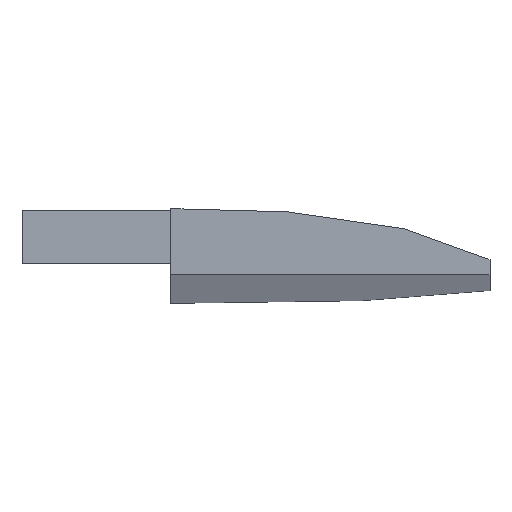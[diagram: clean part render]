
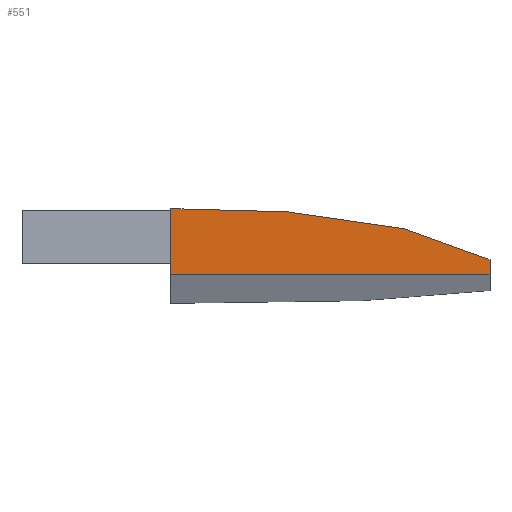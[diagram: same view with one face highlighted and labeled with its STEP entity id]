
A CAD part, top view. The second image highlights one B-rep face of the part: STEP entity #551.
In plain terms, the highlighted planar face has unit normal (0, 0, 1).
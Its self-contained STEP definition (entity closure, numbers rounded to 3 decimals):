
#32 = PLANE('',#33);
#33 = AXIS2_PLACEMENT_3D('',#34,#35,#36);
#34 = CARTESIAN_POINT('',(0.,0.,0.));
#35 = DIRECTION('',(-1.,0.,0.));
#36 = DIRECTION('',(0.,1.,0.));
#57 = VERTEX_POINT('',#58);
#58 = CARTESIAN_POINT('',(0.,5.39,2.4));
#71 = PLANE('',#72);
#72 = AXIS2_PLACEMENT_3D('',#73,#74,#75);
#73 = CARTESIAN_POINT('',(-4.,5.39,2.4));
#74 = DIRECTION('',(0.,0.407,-0.914));
#75 = DIRECTION('',(0.,-0.914,-0.407));
#82 = EDGE_CURVE('',#57,#83,#85,.T.);
#83 = VERTEX_POINT('',#84);
#84 = CARTESIAN_POINT('',(0.,17.8,2.4));
#85 = SURFACE_CURVE('',#86,(#90,#97),.PCURVE_S1.);
#86 = LINE('',#87,#88);
#87 = CARTESIAN_POINT('',(0.,0.,2.4));
#88 = VECTOR('',#89,1.);
#89 = DIRECTION('',(0.,1.,0.));
#90 = PCURVE('',#32,#91);
#91 = DEFINITIONAL_REPRESENTATION('',(#92),#96);
#92 = LINE('',#93,#94);
#93 = CARTESIAN_POINT('',(0.,-2.4));
#94 = VECTOR('',#95,1.);
#95 = DIRECTION('',(1.,0.));
#96 = ( GEOMETRIC_REPRESENTATION_CONTEXT(2) 
PARAMETRIC_REPRESENTATION_CONTEXT() REPRESENTATION_CONTEXT('2D SPACE',''
  ) );
#97 = PCURVE('',#98,#103);
#98 = PLANE('',#99);
#99 = AXIS2_PLACEMENT_3D('',#100,#101,#102);
#100 = CARTESIAN_POINT('',(27.684,7.962,2.4));
#101 = DIRECTION('',(-0.,-0.,-1.));
#102 = DIRECTION('',(-1.,0.,0.));
#103 = DEFINITIONAL_REPRESENTATION('',(#104),#108);
#104 = LINE('',#105,#106);
#105 = CARTESIAN_POINT('',(27.684,-7.962));
#106 = VECTOR('',#107,1.);
#107 = DIRECTION('',(0.,1.));
#108 = ( GEOMETRIC_REPRESENTATION_CONTEXT(2) 
PARAMETRIC_REPRESENTATION_CONTEXT() REPRESENTATION_CONTEXT('2D SPACE',''
  ) );
#124 = PLANE('',#125);
#125 = AXIS2_PLACEMENT_3D('',#126,#127,#128);
#126 = CARTESIAN_POINT('',(0.,17.8,0.));
#127 = DIRECTION('',(0.027,1.,-0.));
#128 = DIRECTION('',(1.,-0.027,0.));
#293 = PLANE('',#294);
#294 = AXIS2_PLACEMENT_3D('',#295,#296,#297);
#295 = CARTESIAN_POINT('',(22.,17.2,0.));
#296 = DIRECTION('',(0.144,0.99,-0.));
#297 = DIRECTION('',(0.99,-0.144,0.));
#321 = PLANE('',#322);
#322 = AXIS2_PLACEMENT_3D('',#323,#324,#325);
#323 = CARTESIAN_POINT('',(44.,14.,0.));
#324 = DIRECTION('',(0.341,0.94,-0.));
#325 = DIRECTION('',(0.94,-0.341,0.));
#349 = PLANE('',#350);
#350 = AXIS2_PLACEMENT_3D('',#351,#352,#353);
#351 = CARTESIAN_POINT('',(60.,8.2,0.));
#352 = DIRECTION('',(1.,0.,-0.));
#353 = DIRECTION('',(0.,-1.,0.));
#419 = EDGE_CURVE('',#57,#420,#422,.T.);
#420 = VERTEX_POINT('',#421);
#421 = CARTESIAN_POINT('',(60.,5.39,2.4));
#422 = SURFACE_CURVE('',#423,(#427,#434),.PCURVE_S1.);
#423 = LINE('',#424,#425);
#424 = CARTESIAN_POINT('',(-4.,5.39,2.4));
#425 = VECTOR('',#426,1.);
#426 = DIRECTION('',(1.,0.,0.));
#427 = PCURVE('',#71,#428);
#428 = DEFINITIONAL_REPRESENTATION('',(#429),#433);
#429 = LINE('',#430,#431);
#430 = CARTESIAN_POINT('',(0.,0.));
#431 = VECTOR('',#432,1.);
#432 = DIRECTION('',(0.,-1.));
#433 = ( GEOMETRIC_REPRESENTATION_CONTEXT(2) 
PARAMETRIC_REPRESENTATION_CONTEXT() REPRESENTATION_CONTEXT('2D SPACE',''
  ) );
#434 = PCURVE('',#98,#435);
#435 = DEFINITIONAL_REPRESENTATION('',(#436),#440);
#436 = LINE('',#437,#438);
#437 = CARTESIAN_POINT('',(31.684,-2.571));
#438 = VECTOR('',#439,1.);
#439 = DIRECTION('',(-1.,0.));
#440 = ( GEOMETRIC_REPRESENTATION_CONTEXT(2) 
PARAMETRIC_REPRESENTATION_CONTEXT() REPRESENTATION_CONTEXT('2D SPACE',''
  ) );
#507 = EDGE_CURVE('',#83,#508,#510,.T.);
#508 = VERTEX_POINT('',#509);
#509 = CARTESIAN_POINT('',(22.,17.2,2.4));
#510 = SURFACE_CURVE('',#511,(#515,#522),.PCURVE_S1.);
#511 = LINE('',#512,#513);
#512 = CARTESIAN_POINT('',(0.,17.8,2.4));
#513 = VECTOR('',#514,1.);
#514 = DIRECTION('',(1.,-0.027,0.));
#515 = PCURVE('',#124,#516);
#516 = DEFINITIONAL_REPRESENTATION('',(#517),#521);
#517 = LINE('',#518,#519);
#518 = CARTESIAN_POINT('',(0.,-2.4));
#519 = VECTOR('',#520,1.);
#520 = DIRECTION('',(1.,0.));
#521 = ( GEOMETRIC_REPRESENTATION_CONTEXT(2) 
PARAMETRIC_REPRESENTATION_CONTEXT() REPRESENTATION_CONTEXT('2D SPACE',''
  ) );
#522 = PCURVE('',#98,#523);
#523 = DEFINITIONAL_REPRESENTATION('',(#524),#528);
#524 = LINE('',#525,#526);
#525 = CARTESIAN_POINT('',(27.684,9.838));
#526 = VECTOR('',#527,1.);
#527 = DIRECTION('',(-1.,-0.027));
#528 = ( GEOMETRIC_REPRESENTATION_CONTEXT(2) 
PARAMETRIC_REPRESENTATION_CONTEXT() REPRESENTATION_CONTEXT('2D SPACE',''
  ) );
#551 = ADVANCED_FACE('',(#552),#98,.F.);
#552 = FACE_BOUND('',#553,.F.);
#553 = EDGE_LOOP('',(#554,#555,#556,#557,#580,#603));
#554 = ORIENTED_EDGE('',*,*,#419,.F.);
#555 = ORIENTED_EDGE('',*,*,#82,.T.);
#556 = ORIENTED_EDGE('',*,*,#507,.T.);
#557 = ORIENTED_EDGE('',*,*,#558,.T.);
#558 = EDGE_CURVE('',#508,#559,#561,.T.);
#559 = VERTEX_POINT('',#560);
#560 = CARTESIAN_POINT('',(44.,14.,2.4));
#561 = SURFACE_CURVE('',#562,(#566,#573),.PCURVE_S1.);
#562 = LINE('',#563,#564);
#563 = CARTESIAN_POINT('',(22.,17.2,2.4));
#564 = VECTOR('',#565,1.);
#565 = DIRECTION('',(0.99,-0.144,0.));
#566 = PCURVE('',#98,#567);
#567 = DEFINITIONAL_REPRESENTATION('',(#568),#572);
#568 = LINE('',#569,#570);
#569 = CARTESIAN_POINT('',(5.684,9.238));
#570 = VECTOR('',#571,1.);
#571 = DIRECTION('',(-0.99,-0.144));
#572 = ( GEOMETRIC_REPRESENTATION_CONTEXT(2) 
PARAMETRIC_REPRESENTATION_CONTEXT() REPRESENTATION_CONTEXT('2D SPACE',''
  ) );
#573 = PCURVE('',#293,#574);
#574 = DEFINITIONAL_REPRESENTATION('',(#575),#579);
#575 = LINE('',#576,#577);
#576 = CARTESIAN_POINT('',(0.,-2.4));
#577 = VECTOR('',#578,1.);
#578 = DIRECTION('',(1.,0.));
#579 = ( GEOMETRIC_REPRESENTATION_CONTEXT(2) 
PARAMETRIC_REPRESENTATION_CONTEXT() REPRESENTATION_CONTEXT('2D SPACE',''
  ) );
#580 = ORIENTED_EDGE('',*,*,#581,.T.);
#581 = EDGE_CURVE('',#559,#582,#584,.T.);
#582 = VERTEX_POINT('',#583);
#583 = CARTESIAN_POINT('',(60.,8.2,2.4));
#584 = SURFACE_CURVE('',#585,(#589,#596),.PCURVE_S1.);
#585 = LINE('',#586,#587);
#586 = CARTESIAN_POINT('',(44.,14.,2.4));
#587 = VECTOR('',#588,1.);
#588 = DIRECTION('',(0.94,-0.341,0.));
#589 = PCURVE('',#98,#590);
#590 = DEFINITIONAL_REPRESENTATION('',(#591),#595);
#591 = LINE('',#592,#593);
#592 = CARTESIAN_POINT('',(-16.316,6.038));
#593 = VECTOR('',#594,1.);
#594 = DIRECTION('',(-0.94,-0.341));
#595 = ( GEOMETRIC_REPRESENTATION_CONTEXT(2) 
PARAMETRIC_REPRESENTATION_CONTEXT() REPRESENTATION_CONTEXT('2D SPACE',''
  ) );
#596 = PCURVE('',#321,#597);
#597 = DEFINITIONAL_REPRESENTATION('',(#598),#602);
#598 = LINE('',#599,#600);
#599 = CARTESIAN_POINT('',(0.,-2.4));
#600 = VECTOR('',#601,1.);
#601 = DIRECTION('',(1.,0.));
#602 = ( GEOMETRIC_REPRESENTATION_CONTEXT(2) 
PARAMETRIC_REPRESENTATION_CONTEXT() REPRESENTATION_CONTEXT('2D SPACE',''
  ) );
#603 = ORIENTED_EDGE('',*,*,#604,.T.);
#604 = EDGE_CURVE('',#582,#420,#605,.T.);
#605 = SURFACE_CURVE('',#606,(#610,#617),.PCURVE_S1.);
#606 = LINE('',#607,#608);
#607 = CARTESIAN_POINT('',(60.,8.2,2.4));
#608 = VECTOR('',#609,1.);
#609 = DIRECTION('',(0.,-1.,0.));
#610 = PCURVE('',#98,#611);
#611 = DEFINITIONAL_REPRESENTATION('',(#612),#616);
#612 = LINE('',#613,#614);
#613 = CARTESIAN_POINT('',(-32.316,0.238));
#614 = VECTOR('',#615,1.);
#615 = DIRECTION('',(0.,-1.));
#616 = ( GEOMETRIC_REPRESENTATION_CONTEXT(2) 
PARAMETRIC_REPRESENTATION_CONTEXT() REPRESENTATION_CONTEXT('2D SPACE',''
  ) );
#617 = PCURVE('',#349,#618);
#618 = DEFINITIONAL_REPRESENTATION('',(#619),#623);
#619 = LINE('',#620,#621);
#620 = CARTESIAN_POINT('',(0.,-2.4));
#621 = VECTOR('',#622,1.);
#622 = DIRECTION('',(1.,0.));
#623 = ( GEOMETRIC_REPRESENTATION_CONTEXT(2) 
PARAMETRIC_REPRESENTATION_CONTEXT() REPRESENTATION_CONTEXT('2D SPACE',''
  ) );
